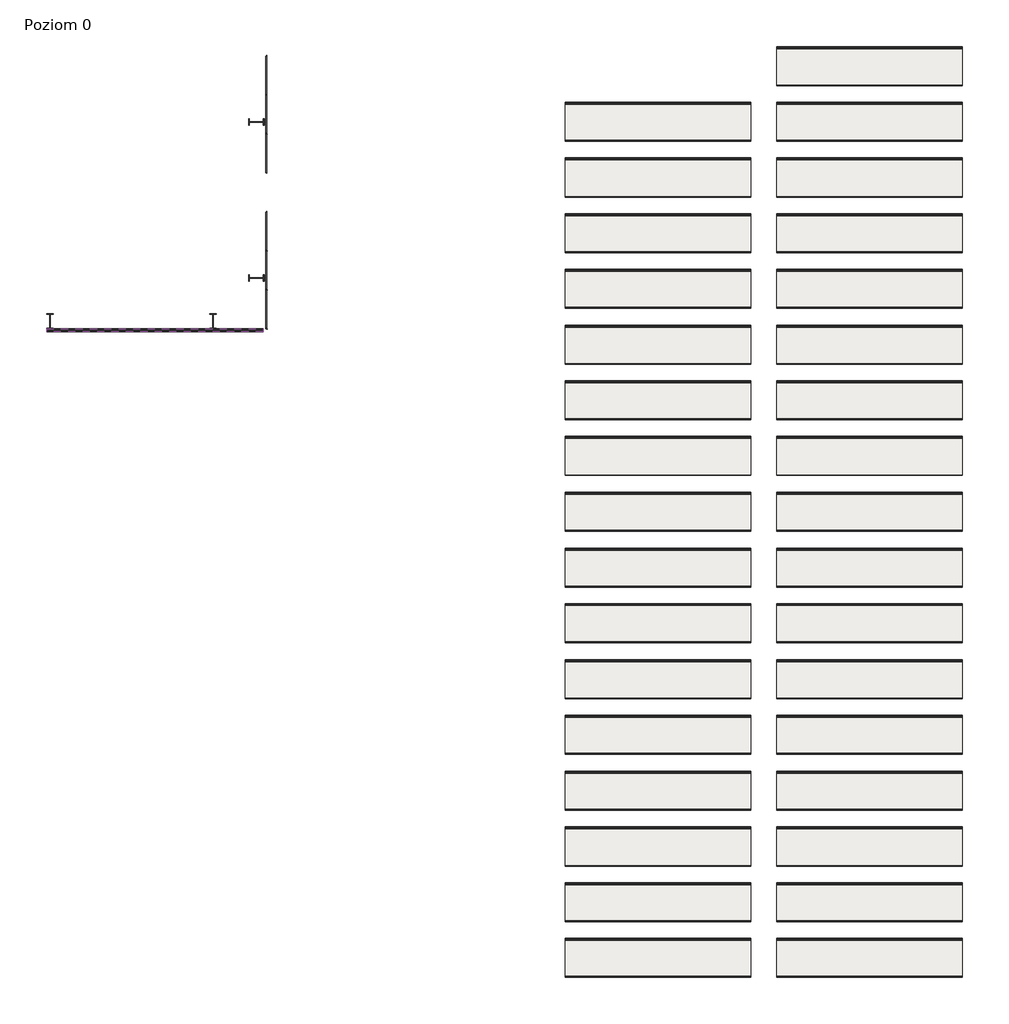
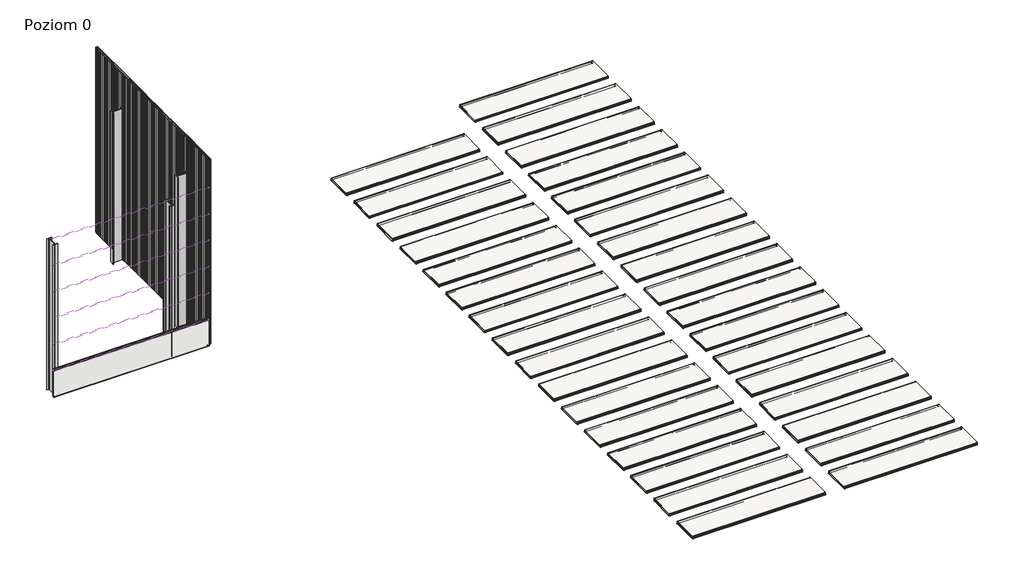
# One storey: 47 coverings, 4 columns.
"""IFC4 building model written with IfcOpenShell, lengths in millimetres."""

from ifc_helpers import new_model, si_unit, origin, place, context, project, spatial, transform, mapped, element, save
from components import standard1_standard_8d04f7a0, covering_aa46a6c9, covering_65365aae, covering_51063ac3

model = new_model("IFC4")

# Units and contexts
model_context = context("Model", 3, world=origin())
ifc_project = project(units=[si_unit("LENGTHUNIT", "METRE", prefix="MILLI")], contexts=[model_context])

# Site, building, storey
site = spatial("IfcSite", under=ifc_project)
building = spatial("IfcBuilding", under=site)
storey = spatial("IfcBuildingStorey", under=building, Name="Poziom 0", Elevation=0.0)

# Columns
placement = place(None, origin())
standard1_standard_shape = standard1_standard_8d04f7a0(model_context)
element("IfcColumn", 1, ObjectType="Standard1 : Standard", at=placement, inside=storey, context=model_context, shape_type="MappedRepresentation", body=[
    mapped(standard1_standard_shape, transform((-652.7962443, -3943.6992704, 0.0), x_axis=(0.0, 1.0, 0.0), y_axis=(-1.0, 0.0, 0.0), z_axis=(0.0, 0.0, 1.0))),
])
element("IfcColumn", 2, ObjectType="Standard1 : Standard", at=placement, inside=storey, context=model_context, shape_type="MappedRepresentation", body=[
    mapped(standard1_standard_shape, transform((-652.7962443, -8143.6992704, 0.0), x_axis=(0.0, 1.0, 0.0), y_axis=(-1.0, 0.0, 0.0), z_axis=(0.0, 0.0, 1.0))),
])
element("IfcColumn", 3, ObjectType="Standard1 : Standard", at=placement, inside=storey, context=model_context, shape_type="MappedRepresentation", body=[
    mapped(standard1_standard_shape, transform((-6212.3962443, -9314.4059697, 0.0), x_axis=(1.0, 0.0, 0.0), y_axis=(0.0, 1.0, 0.0), z_axis=(0.0, 0.0, 1.0))),
])
element("IfcColumn", 4, ObjectType="Standard1 : Standard", at=placement, inside=storey, context=model_context, shape_type="MappedRepresentation", body=[
    mapped(standard1_standard_shape, transform((-1821.8962443, -9314.4059697, 0.0), x_axis=(1.0, 0.0, 0.0), y_axis=(0.0, 1.0, 0.0), z_axis=(0.0, 0.0, 1.0))),
])

# Coverings
covering_shape = covering_aa46a6c9(model_context)
element("IfcCovering", 5, ObjectType="Płyta warstwowa ścienna SPW-H CORE PIR (pojedynczy arkusz) : -", at=placement, inside=storey, context=model_context, shape_type="MappedRepresentation", body=[
    mapped(covering_shape, transform((-367.8962443, -2133.9059698, 7350.0), x_axis=(0.0, 1.0, 0.0), y_axis=(0.0, 0.0, 1.0), z_axis=(1.0, 0.0, 0.0))),
])
element("IfcCovering", 6, ObjectType="Płyta warstwowa ścienna SPW-H CORE PIR (pojedynczy arkusz) : -", at=placement, inside=storey, context=model_context, shape_type="MappedRepresentation", body=[
    mapped(covering_shape, transform((-367.8962443, -4233.9059698, 7350.0), x_axis=(0.0, 1.0, 0.0), y_axis=(0.0, 0.0, 1.0), z_axis=(1.0, 0.0, 0.0))),
])
element("IfcCovering", 7, ObjectType="Płyta warstwowa ścienna SPW-H CORE PIR (pojedynczy arkusz) : -", at=placement, inside=storey, context=model_context, shape_type="MappedRepresentation", body=[
    mapped(covering_shape, transform((-367.8962443, -5283.9059697, 7350.0), x_axis=(0.0, 1.0, 0.0), y_axis=(0.0, 0.0, 1.0), z_axis=(1.0, 0.0, 0.0))),
])
element("IfcCovering", 8, ObjectType="Płyta warstwowa ścienna SPW-H CORE PIR (pojedynczy arkusz) : -", at=placement, inside=storey, context=model_context, shape_type="MappedRepresentation", body=[
    mapped(covering_shape, transform((-367.8962443, -6333.9059696, 7350.0), x_axis=(0.0, 1.0, 0.0), y_axis=(0.0, 0.0, 1.0), z_axis=(1.0, 0.0, 0.0))),
])
element("IfcCovering", 9, ObjectType="Płyta warstwowa ścienna SPW-H CORE PIR (pojedynczy arkusz) : -", at=placement, inside=storey, context=model_context, shape_type="MappedRepresentation", body=[
    mapped(covering_shape, transform((-367.8962443, -7383.9059695, 7350.0), x_axis=(0.0, 1.0, 0.0), y_axis=(0.0, 0.0, 1.0), z_axis=(1.0, 0.0, 0.0))),
])
element("IfcCovering", 10, ObjectType="Płyta warstwowa ścienna SPW-H CORE PIR (pojedynczy arkusz) : -", at=placement, inside=storey, context=model_context, shape_type="MappedRepresentation", body=[
    mapped(covering_shape, transform((-367.8962443, -8433.9059696, 7350.0), x_axis=(0.0, 1.0, 0.0), y_axis=(0.0, 0.0, 1.0), z_axis=(1.0, 0.0, 0.0))),
])
element("IfcCovering", 11, ObjectType="Płyta warstwowa ścienna SPW-H CORE PIR (pojedynczy arkusz) : -", at=placement, inside=storey, context=model_context, shape_type="MappedRepresentation", body=[
    mapped(covering_shape, transform((-367.8962443, -3183.9059699, 7350.0), x_axis=(0.0, 1.0, 0.0), y_axis=(0.0, 0.0, 1.0), z_axis=(1.0, 0.0, 0.0))),
])
covering_2_shape = covering_65365aae(model_context)
element("IfcCovering", 12, ObjectType="Płyta warstwowa ścienna SPW-H CORE PIR (pojedynczy arkusz) : -", at=placement, inside=storey, context=model_context, shape_type="MappedRepresentation", body=[
    mapped(covering_2_shape, transform((-475.4527536, -9598.9059697, -35.0), x_axis=(0.0, 0.0, -1.0), y_axis=(1.0, 0.0, 0.0), z_axis=(0.0, -1.0, 0.0))),
])
element("IfcCovering", 13, ObjectType="Płyta warstwowa ścienna SPW-H CORE PIR (pojedynczy arkusz) : -", at=placement, inside=storey, context=model_context, shape_type="MappedRepresentation", body=[
    mapped(covering_2_shape, transform((-475.4527536, -9598.9059697, 1015.0), x_axis=(0.0, 0.0, -1.0), y_axis=(1.0, 0.0, 0.0), z_axis=(0.0, -1.0, 0.0))),
])
element("IfcCovering", 14, ObjectType="Płyta warstwowa ścienna SPW-H CORE PIR (pojedynczy arkusz) : -", at=placement, inside=storey, context=model_context, shape_type="MappedRepresentation", body=[
    mapped(covering_2_shape, transform((-475.4527536, -9598.9059697, 2065.0), x_axis=(0.0, 0.0, -1.0), y_axis=(1.0, 0.0, 0.0), z_axis=(0.0, -1.0, 0.0))),
])
element("IfcCovering", 15, ObjectType="Płyta warstwowa ścienna SPW-H CORE PIR (pojedynczy arkusz) : -", at=placement, inside=storey, context=model_context, shape_type="MappedRepresentation", body=[
    mapped(covering_2_shape, transform((-475.4527536, -9598.9059697, 3115.0), x_axis=(0.0, 0.0, -1.0), y_axis=(1.0, 0.0, 0.0), z_axis=(0.0, -1.0, 0.0))),
])
element("IfcCovering", 16, ObjectType="Płyta warstwowa ścienna SPW-H CORE PIR (pojedynczy arkusz) : -", at=placement, inside=storey, context=model_context, shape_type="MappedRepresentation", body=[
    mapped(covering_2_shape, transform((-475.4527536, -9598.9059697, 4165.0), x_axis=(0.0, 0.0, -1.0), y_axis=(1.0, 0.0, 0.0), z_axis=(0.0, -1.0, 0.0))),
])
element("IfcCovering", 17, ObjectType="Płyta warstwowa ścienna SPW-H CORE PIR (pojedynczy arkusz) : -", at=placement, inside=storey, context=model_context, shape_type="MappedRepresentation", body=[
    mapped(covering_2_shape, transform((-475.4527536, -9598.9059697, 5215.0), x_axis=(0.0, 0.0, -1.0), y_axis=(1.0, 0.0, 0.0), z_axis=(0.0, -1.0, 0.0))),
])
element("IfcCovering", 18, ObjectType="Płyta warstwowa ścienna SPW-H CORE PIR (pojedynczy arkusz) : -", at=placement, inside=storey, context=model_context, shape_type="MappedRepresentation", body=[
    mapped(covering_2_shape, transform((-475.4527536, -9598.9059697, 6265.0), x_axis=(0.0, 0.0, -1.0), y_axis=(1.0, 0.0, 0.0), z_axis=(0.0, -1.0, 0.0))),
])
covering_3_shape = covering_51063ac3(model_context)
element("IfcCovering", 19, ObjectType="Płyta warstwowa ścienna SPW-H CORE PIR (pojedynczy arkusz) : -", at=placement, inside=storey, context=model_context, shape_type="MappedRepresentation", body=[
    mapped(covering_3_shape, transform((12661.4641213, -4480.5974484, 100.0), x_axis=(0.0, -1.0, 0.0), y_axis=(1.0, 0.0, 0.0), z_axis=(0.0, 0.0, 1.0))),
])
element("IfcCovering", 20, ObjectType="Płyta warstwowa ścienna SPW-H CORE PIR (pojedynczy arkusz) : -", at=placement, inside=storey, context=model_context, shape_type="MappedRepresentation", body=[
    mapped(covering_3_shape, transform((12661.4641213, -5980.5974484, 100.0), x_axis=(0.0, -1.0, 0.0), y_axis=(1.0, 0.0, 0.0), z_axis=(0.0, 0.0, 1.0))),
])
element("IfcCovering", 21, ObjectType="Płyta warstwowa ścienna SPW-H CORE PIR (pojedynczy arkusz) : -", at=placement, inside=storey, context=model_context, shape_type="MappedRepresentation", body=[
    mapped(covering_3_shape, transform((12661.4641213, -7480.5974484, 100.0), x_axis=(0.0, -1.0, 0.0), y_axis=(1.0, 0.0, 0.0), z_axis=(0.0, 0.0, 1.0))),
])
element("IfcCovering", 22, ObjectType="Płyta warstwowa ścienna SPW-H CORE PIR (pojedynczy arkusz) : -", at=placement, inside=storey, context=model_context, shape_type="MappedRepresentation", body=[
    mapped(covering_3_shape, transform((12661.4641213, -8980.5974484, 100.0), x_axis=(0.0, -1.0, 0.0), y_axis=(1.0, 0.0, 0.0), z_axis=(0.0, 0.0, 1.0))),
])
element("IfcCovering", 23, ObjectType="Płyta warstwowa ścienna SPW-H CORE PIR (pojedynczy arkusz) : -", at=placement, inside=storey, context=model_context, shape_type="MappedRepresentation", body=[
    mapped(covering_3_shape, transform((12661.4641213, -10480.5974484, 100.0), x_axis=(0.0, -1.0, 0.0), y_axis=(1.0, 0.0, 0.0), z_axis=(0.0, 0.0, 1.0))),
])
element("IfcCovering", 24, ObjectType="Płyta warstwowa ścienna SPW-H CORE PIR (pojedynczy arkusz) : -", at=placement, inside=storey, context=model_context, shape_type="MappedRepresentation", body=[
    mapped(covering_3_shape, transform((12661.4641213, -11980.5974484, 100.0), x_axis=(0.0, -1.0, 0.0), y_axis=(1.0, 0.0, 0.0), z_axis=(0.0, 0.0, 1.0))),
])
element("IfcCovering", 25, ObjectType="Płyta warstwowa ścienna SPW-H CORE PIR (pojedynczy arkusz) : -", at=placement, inside=storey, context=model_context, shape_type="MappedRepresentation", body=[
    mapped(covering_3_shape, transform((12661.4641213, -13480.5974484, 100.0), x_axis=(0.0, -1.0, 0.0), y_axis=(1.0, 0.0, 0.0), z_axis=(0.0, 0.0, 1.0))),
])
element("IfcCovering", 26, ObjectType="Płyta warstwowa ścienna SPW-H CORE PIR (pojedynczy arkusz) : -", at=placement, inside=storey, context=model_context, shape_type="MappedRepresentation", body=[
    mapped(covering_3_shape, transform((12661.4641213, -14980.5974484, 100.0), x_axis=(0.0, -1.0, 0.0), y_axis=(1.0, 0.0, 0.0), z_axis=(0.0, 0.0, 1.0))),
])
element("IfcCovering", 27, ObjectType="Płyta warstwowa ścienna SPW-H CORE PIR (pojedynczy arkusz) : -", at=placement, inside=storey, context=model_context, shape_type="MappedRepresentation", body=[
    mapped(covering_3_shape, transform((12661.4641213, -16490.082932, 100.0), x_axis=(0.0, -1.0, 0.0), y_axis=(1.0, 0.0, 0.0), z_axis=(0.0, 0.0, 1.0))),
])
element("IfcCovering", 28, ObjectType="Płyta warstwowa ścienna SPW-H CORE PIR (pojedynczy arkusz) : -", at=placement, inside=storey, context=model_context, shape_type="MappedRepresentation", body=[
    mapped(covering_3_shape, transform((12661.4641213, -17990.082932, 100.0), x_axis=(0.0, -1.0, 0.0), y_axis=(1.0, 0.0, 0.0), z_axis=(0.0, 0.0, 1.0))),
])
element("IfcCovering", 29, ObjectType="Płyta warstwowa ścienna SPW-H CORE PIR (pojedynczy arkusz) : -", at=placement, inside=storey, context=model_context, shape_type="MappedRepresentation", body=[
    mapped(covering_3_shape, transform((12661.4641213, -19490.082932, 100.0), x_axis=(0.0, -1.0, 0.0), y_axis=(1.0, 0.0, 0.0), z_axis=(0.0, 0.0, 1.0))),
])
element("IfcCovering", 30, ObjectType="Płyta warstwowa ścienna SPW-H CORE PIR (pojedynczy arkusz) : -", at=placement, inside=storey, context=model_context, shape_type="MappedRepresentation", body=[
    mapped(covering_3_shape, transform((12661.4641213, -20990.082932, 100.0), x_axis=(0.0, -1.0, 0.0), y_axis=(1.0, 0.0, 0.0), z_axis=(0.0, 0.0, 1.0))),
])
element("IfcCovering", 31, ObjectType="Płyta warstwowa ścienna SPW-H CORE PIR (pojedynczy arkusz) : -", at=placement, inside=storey, context=model_context, shape_type="MappedRepresentation", body=[
    mapped(covering_3_shape, transform((12661.4641213, -22499.5684156, 100.0), x_axis=(0.0, -1.0, 0.0), y_axis=(1.0, 0.0, 0.0), z_axis=(0.0, 0.0, 1.0))),
])
element("IfcCovering", 32, ObjectType="Płyta warstwowa ścienna SPW-H CORE PIR (pojedynczy arkusz) : -", at=placement, inside=storey, context=model_context, shape_type="MappedRepresentation", body=[
    mapped(covering_3_shape, transform((12661.4641213, -23999.5684156, 100.0), x_axis=(0.0, -1.0, 0.0), y_axis=(1.0, 0.0, 0.0), z_axis=(0.0, 0.0, 1.0))),
])
element("IfcCovering", 33, ObjectType="Płyta warstwowa ścienna SPW-H CORE PIR (pojedynczy arkusz) : -", at=placement, inside=storey, context=model_context, shape_type="MappedRepresentation", body=[
    mapped(covering_3_shape, transform((12661.4641213, -25499.5684156, 100.0), x_axis=(0.0, -1.0, 0.0), y_axis=(1.0, 0.0, 0.0), z_axis=(0.0, 0.0, 1.0))),
])
element("IfcCovering", 34, ObjectType="Płyta warstwowa ścienna SPW-H CORE PIR (pojedynczy arkusz) : -", at=placement, inside=storey, context=model_context, shape_type="MappedRepresentation", body=[
    mapped(covering_3_shape, transform((12661.4641213, -26999.5684156, 100.0), x_axis=(0.0, -1.0, 0.0), y_axis=(1.0, 0.0, 0.0), z_axis=(0.0, 0.0, 1.0))),
])
element("IfcCovering", 35, ObjectType="Płyta warstwowa ścienna SPW-H CORE PIR (pojedynczy arkusz) : -", at=placement, inside=storey, context=model_context, shape_type="MappedRepresentation", body=[
    mapped(covering_3_shape, transform((18361.4641213, -4480.5974484, 100.0), x_axis=(0.0, -1.0, 0.0), y_axis=(1.0, 0.0, 0.0), z_axis=(0.0, 0.0, 1.0))),
])
element("IfcCovering", 36, ObjectType="Płyta warstwowa ścienna SPW-H CORE PIR (pojedynczy arkusz) : -", at=placement, inside=storey, context=model_context, shape_type="MappedRepresentation", body=[
    mapped(covering_3_shape, transform((18361.4641213, -5980.5974484, 100.0), x_axis=(0.0, -1.0, 0.0), y_axis=(1.0, 0.0, 0.0), z_axis=(0.0, 0.0, 1.0))),
])
element("IfcCovering", 37, ObjectType="Płyta warstwowa ścienna SPW-H CORE PIR (pojedynczy arkusz) : -", at=placement, inside=storey, context=model_context, shape_type="MappedRepresentation", body=[
    mapped(covering_3_shape, transform((18361.4641213, -7480.5974484, 100.0), x_axis=(0.0, -1.0, 0.0), y_axis=(1.0, 0.0, 0.0), z_axis=(0.0, 0.0, 1.0))),
])
element("IfcCovering", 38, ObjectType="Płyta warstwowa ścienna SPW-H CORE PIR (pojedynczy arkusz) : -", at=placement, inside=storey, context=model_context, shape_type="MappedRepresentation", body=[
    mapped(covering_3_shape, transform((18361.4641213, -8980.5974484, 100.0), x_axis=(0.0, -1.0, 0.0), y_axis=(1.0, 0.0, 0.0), z_axis=(0.0, 0.0, 1.0))),
])
element("IfcCovering", 39, ObjectType="Płyta warstwowa ścienna SPW-H CORE PIR (pojedynczy arkusz) : -", at=placement, inside=storey, context=model_context, shape_type="MappedRepresentation", body=[
    mapped(covering_3_shape, transform((18361.4641213, -10480.5974484, 100.0), x_axis=(0.0, -1.0, 0.0), y_axis=(1.0, 0.0, 0.0), z_axis=(0.0, 0.0, 1.0))),
])
element("IfcCovering", 40, ObjectType="Płyta warstwowa ścienna SPW-H CORE PIR (pojedynczy arkusz) : -", at=placement, inside=storey, context=model_context, shape_type="MappedRepresentation", body=[
    mapped(covering_3_shape, transform((18361.4641213, -11980.5974484, 100.0), x_axis=(0.0, -1.0, 0.0), y_axis=(1.0, 0.0, 0.0), z_axis=(0.0, 0.0, 1.0))),
])
element("IfcCovering", 41, ObjectType="Płyta warstwowa ścienna SPW-H CORE PIR (pojedynczy arkusz) : -", at=placement, inside=storey, context=model_context, shape_type="MappedRepresentation", body=[
    mapped(covering_3_shape, transform((18361.4641213, -13480.5974484, 100.0), x_axis=(0.0, -1.0, 0.0), y_axis=(1.0, 0.0, 0.0), z_axis=(0.0, 0.0, 1.0))),
])
element("IfcCovering", 42, ObjectType="Płyta warstwowa ścienna SPW-H CORE PIR (pojedynczy arkusz) : -", at=placement, inside=storey, context=model_context, shape_type="MappedRepresentation", body=[
    mapped(covering_3_shape, transform((18361.4641213, -14980.5974484, 100.0), x_axis=(0.0, -1.0, 0.0), y_axis=(1.0, 0.0, 0.0), z_axis=(0.0, 0.0, 1.0))),
])
element("IfcCovering", 43, ObjectType="Płyta warstwowa ścienna SPW-H CORE PIR (pojedynczy arkusz) : -", at=placement, inside=storey, context=model_context, shape_type="MappedRepresentation", body=[
    mapped(covering_3_shape, transform((18361.4641213, -16490.082932, 100.0), x_axis=(0.0, -1.0, 0.0), y_axis=(1.0, 0.0, 0.0), z_axis=(0.0, 0.0, 1.0))),
])
element("IfcCovering", 44, ObjectType="Płyta warstwowa ścienna SPW-H CORE PIR (pojedynczy arkusz) : -", at=placement, inside=storey, context=model_context, shape_type="MappedRepresentation", body=[
    mapped(covering_3_shape, transform((18361.4641213, -17990.082932, 100.0), x_axis=(0.0, -1.0, 0.0), y_axis=(1.0, 0.0, 0.0), z_axis=(0.0, 0.0, 1.0))),
])
element("IfcCovering", 45, ObjectType="Płyta warstwowa ścienna SPW-H CORE PIR (pojedynczy arkusz) : -", at=placement, inside=storey, context=model_context, shape_type="MappedRepresentation", body=[
    mapped(covering_3_shape, transform((18361.4641213, -19490.082932, 100.0), x_axis=(0.0, -1.0, 0.0), y_axis=(1.0, 0.0, 0.0), z_axis=(0.0, 0.0, 1.0))),
])
element("IfcCovering", 46, ObjectType="Płyta warstwowa ścienna SPW-H CORE PIR (pojedynczy arkusz) : -", at=placement, inside=storey, context=model_context, shape_type="MappedRepresentation", body=[
    mapped(covering_3_shape, transform((18361.4641213, -20990.082932, 100.0), x_axis=(0.0, -1.0, 0.0), y_axis=(1.0, 0.0, 0.0), z_axis=(0.0, 0.0, 1.0))),
])
element("IfcCovering", 47, ObjectType="Płyta warstwowa ścienna SPW-H CORE PIR (pojedynczy arkusz) : -", at=placement, inside=storey, context=model_context, shape_type="MappedRepresentation", body=[
    mapped(covering_3_shape, transform((18361.4641213, -22499.5684156, 100.0), x_axis=(0.0, -1.0, 0.0), y_axis=(1.0, 0.0, 0.0), z_axis=(0.0, 0.0, 1.0))),
])
element("IfcCovering", 48, ObjectType="Płyta warstwowa ścienna SPW-H CORE PIR (pojedynczy arkusz) : -", at=placement, inside=storey, context=model_context, shape_type="MappedRepresentation", body=[
    mapped(covering_3_shape, transform((18361.4641213, -23999.5684156, 100.0), x_axis=(0.0, -1.0, 0.0), y_axis=(1.0, 0.0, 0.0), z_axis=(0.0, 0.0, 1.0))),
])
element("IfcCovering", 49, ObjectType="Płyta warstwowa ścienna SPW-H CORE PIR (pojedynczy arkusz) : -", at=placement, inside=storey, context=model_context, shape_type="MappedRepresentation", body=[
    mapped(covering_3_shape, transform((18361.4641213, -25499.5684156, 100.0), x_axis=(0.0, -1.0, 0.0), y_axis=(1.0, 0.0, 0.0), z_axis=(0.0, 0.0, 1.0))),
])
element("IfcCovering", 50, ObjectType="Płyta warstwowa ścienna SPW-H CORE PIR (pojedynczy arkusz) : -", at=placement, inside=storey, context=model_context, shape_type="MappedRepresentation", body=[
    mapped(covering_3_shape, transform((18361.4641213, -26999.5684156, 100.0), x_axis=(0.0, -1.0, 0.0), y_axis=(1.0, 0.0, 0.0), z_axis=(0.0, 0.0, 1.0))),
])
element("IfcCovering", 51, ObjectType="Płyta warstwowa ścienna SPW-H CORE PIR (pojedynczy arkusz) : -", at=placement, inside=storey, context=model_context, shape_type="MappedRepresentation", body=[
    mapped(covering_3_shape, transform((18361.4641213, -2980.5974484, 100.0), x_axis=(0.0, -1.0, 0.0), y_axis=(1.0, 0.0, 0.0), z_axis=(0.0, 0.0, 1.0))),
])

save(model, "model.ifc")
